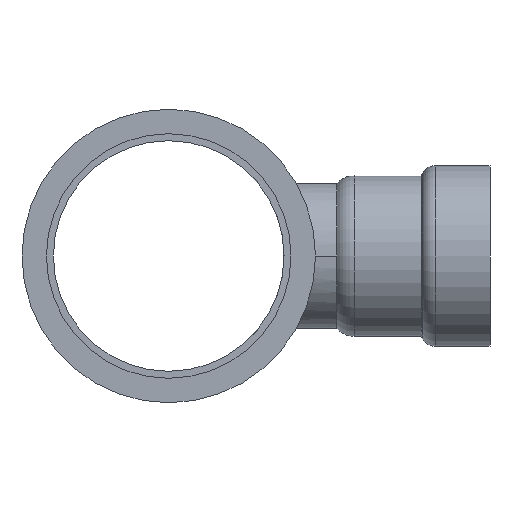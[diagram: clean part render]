
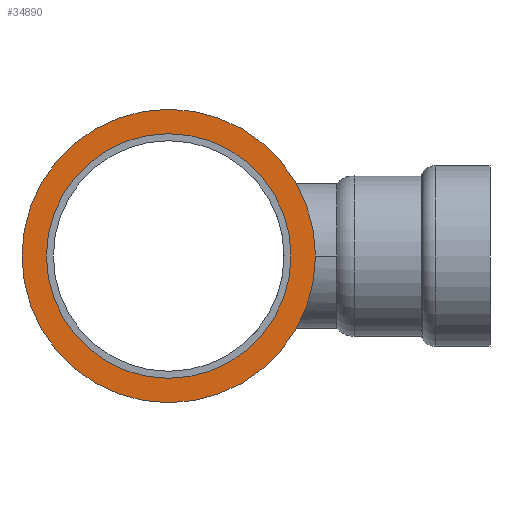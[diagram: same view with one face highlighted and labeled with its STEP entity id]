
A CAD part, left-side view. The second image highlights one B-rep face of the part: STEP entity #34890.
In plain terms, the highlighted planar face has unit normal (-1, 0, 0).
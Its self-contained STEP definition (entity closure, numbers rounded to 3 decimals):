
#32570=CARTESIAN_POINT('',(53.136,49.095,30.75));
#32580=VERTEX_POINT('',#32570);
#32660=CARTESIAN_POINT('',(53.136,49.095,-30.75));
#32670=VERTEX_POINT('',#32660);
#32700=CARTESIAN_POINT('',(53.136,49.095,
0.));
#32710=DIRECTION('',(1.,0.,0.));
#32720=DIRECTION('',(0.,0.,1.));
#32730=AXIS2_PLACEMENT_3D('',#32700,#32710,#32720);
#32740=CIRCLE('',#32730,30.75);
#32750=EDGE_CURVE('',#32670,#32580,#32740,.T.);
#34640=CARTESIAN_POINT('',(53.136,49.095,-35.85));
#34650=DIRECTION('',(1.,0.,0.));
#34660=DIRECTION('',(0.,0.,1.));
#34670=AXIS2_PLACEMENT_3D('',#34640,#34650,#34660);
#34680=PLANE('',#34670);
#34690=EDGE_CURVE('',#32580,#32670,#32740,.T.);
#34700=ORIENTED_EDGE('',*,*,#34690,.T.);
#34710=ORIENTED_EDGE('',*,*,#32750,.T.);
#34720=EDGE_LOOP('',(#34710,#34700));
#34730=FACE_BOUND('',#34720,.T.);
#34740=CARTESIAN_POINT('',(53.136,49.095,
0.));
#34750=DIRECTION('',(1.,0.,0.));
#34760=DIRECTION('',(0.,0.,-1.));
#34770=AXIS2_PLACEMENT_3D('',#34740,#34750,#34760);
#34780=CIRCLE('',#34770,36.9);
#34790=CARTESIAN_POINT('',(53.136,49.095,-36.9));
#34800=VERTEX_POINT('',#34790);
#34810=CARTESIAN_POINT('',(53.136,49.095,36.9));
#34820=VERTEX_POINT('',#34810);
#34830=EDGE_CURVE('',#34800,#34820,#34780,.T.);
#34840=ORIENTED_EDGE('',*,*,#34830,.F.);
#34850=EDGE_CURVE('',#34820,#34800,#34780,.T.);
#34860=ORIENTED_EDGE('',*,*,#34850,.F.);
#34870=EDGE_LOOP('',(#34860,#34840));
#34880=FACE_OUTER_BOUND('',#34870,.T.);
#34890=ADVANCED_FACE('',(#34730,#34880),#34680,.F.);
